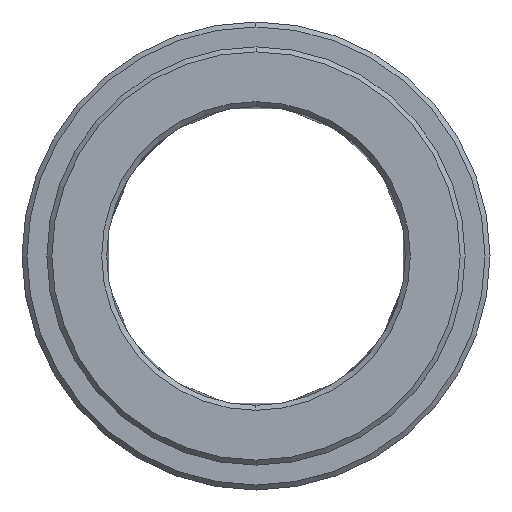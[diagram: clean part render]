
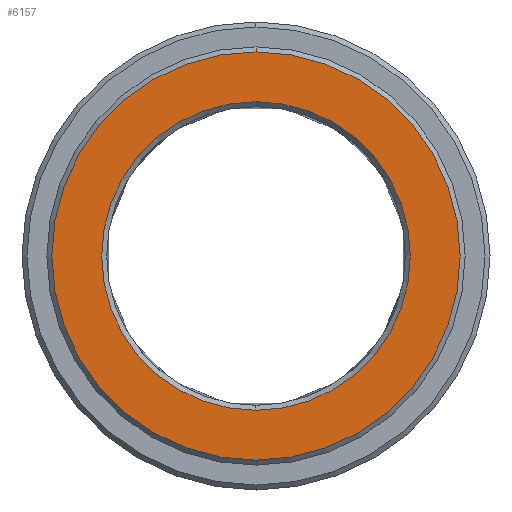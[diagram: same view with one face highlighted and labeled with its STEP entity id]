
A CAD part, left-side view. The second image highlights one B-rep face of the part: STEP entity #6157.
In plain terms, the highlighted planar face has unit normal (-1, 0, 0).
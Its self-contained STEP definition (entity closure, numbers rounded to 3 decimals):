
#4018=CARTESIAN_POINT('',(-8.,0.,
0.));
#4019=DIRECTION('',(1.,0.,0.));
#4020=DIRECTION('',(0.,0.,-1.));
#4021=AXIS2_PLACEMENT_3D('',#4018,#4019,#4020);
#4023=CARTESIAN_POINT('',(-8.,0.,0.));
#4024=DIRECTION('',(1.,0.,0.));
#4025=DIRECTION('',(0.,0.,1.));
#4026=AXIS2_PLACEMENT_3D('',#4023,#4024,#4025);
#4028=CARTESIAN_POINT('',(-8.,0.,0.));
#4029=DIRECTION('',(1.,0.,0.));
#4030=DIRECTION('',(0.,0.,-1.));
#4031=AXIS2_PLACEMENT_3D('',#4028,#4029,#4030);
#4033=CARTESIAN_POINT('',(-8.,0.,
0.));
#4034=DIRECTION('',(1.,0.,0.));
#4035=DIRECTION('',(0.,0.,1.));
#4036=AXIS2_PLACEMENT_3D('',#4033,#4034,#4035);
#4314=CARTESIAN_POINT('',(-8.,0.,-15.5));
#4315=CARTESIAN_POINT('',(-8.,0.,15.5));
#4316=VERTEX_POINT('',#4314);
#4317=VERTEX_POINT('',#4315);
#4322=CARTESIAN_POINT('',(-8.,0.,-20.5));
#4323=CARTESIAN_POINT('',(-8.,0.,20.5));
#4324=VERTEX_POINT('',#4322);
#4325=VERTEX_POINT('',#4323);
#6142=CARTESIAN_POINT('',(-8.,0.,0.));
#6143=DIRECTION('',(1.,0.,0.));
#6144=DIRECTION('',(0.,0.,1.));
#6145=AXIS2_PLACEMENT_3D('',#6142,#6143,#6144);
#6146=PLANE('',#6145);
#6147=ORIENTED_EDGE('',*,*,#6124,.T.);
#6148=ORIENTED_EDGE('',*,*,#6109,.T.);
#6149=EDGE_LOOP('',(#6147,#6148));
#6150=FACE_OUTER_BOUND('',#6149,.F.);
#6152=ORIENTED_EDGE('',*,*,#6151,.F.);
#6154=ORIENTED_EDGE('',*,*,#6153,.F.);
#6155=EDGE_LOOP('',(#6152,#6154));
#6156=FACE_BOUND('',#6155,.F.);
#6157=ADVANCED_FACE('',(#6150,#6156),#6146,.F.);
#4022=CIRCLE('',#4021,20.5);
#4027=CIRCLE('',#4026,20.5);
#4032=CIRCLE('',#4031,15.5);
#4037=CIRCLE('',#4036,15.5);
#6109=EDGE_CURVE('',#4325,#4324,#4027,.T.);
#6124=EDGE_CURVE('',#4324,#4325,#4022,.T.);
#6151=EDGE_CURVE('',#4316,#4317,#4032,.T.);
#6153=EDGE_CURVE('',#4317,#4316,#4037,.T.);
